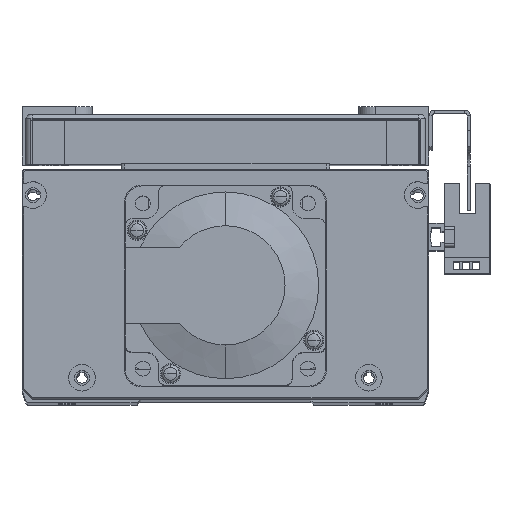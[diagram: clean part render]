
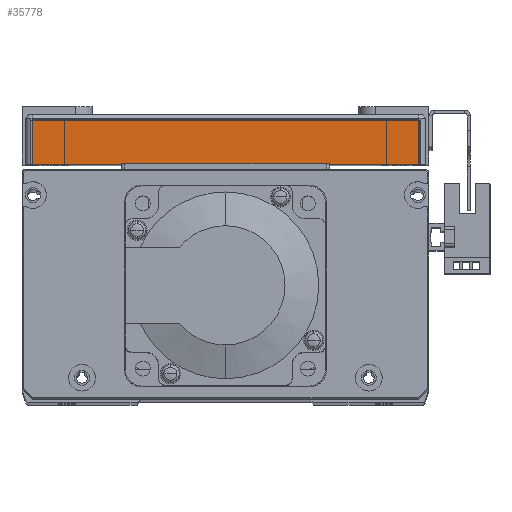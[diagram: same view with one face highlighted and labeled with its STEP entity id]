
A CAD part, top view. The second image highlights one B-rep face of the part: STEP entity #35778.
In plain terms, the highlighted planar face has unit normal (0, 0, 1) as drawn and (1, 0, 0) by its records, which use the part's own axes.
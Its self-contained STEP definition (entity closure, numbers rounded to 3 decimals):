
#673 = CARTESIAN_POINT ( 'NONE',  ( 82.5, 14., 58. ) ) ;
#762 = CARTESIAN_POINT ( 'NONE',  ( 82.5, 14., -58. ) ) ;
#777 = CARTESIAN_POINT ( 'NONE',  ( 82.5, 0., -58. ) ) ;
#806 = CARTESIAN_POINT ( 'NONE',  ( 82.5, 0., 58. ) ) ;
#1099 = CARTESIAN_POINT ( 'NONE',  ( 82.5, 15., -60. ) ) ;
#1131 = DIRECTION ( 'NONE',  ( 0., 0., 1. ) ) ;
#1134 = PLANE ( 'NONE',  #50796 ) ;
#1139 = DIRECTION ( 'NONE',  ( -1., 0., 0. ) ) ;
#2709 = EDGE_LOOP ( 'NONE', ( #45552, #46120, #46133, #45587 ) ) ;
#14222 = FACE_OUTER_BOUND ( 'NONE', #2709, .T. ) ;
#14308 = DIRECTION ( 'NONE',  ( 0., 0., -1. ) ) ;
#14313 = CARTESIAN_POINT ( 'NONE',  ( 82.5, 0., -60. ) ) ;
#14759 = DIRECTION ( 'NONE',  ( 0., 1., 0. ) ) ;
#14793 = CARTESIAN_POINT ( 'NONE',  ( 82.5, 15., -58. ) ) ;
#14805 = CARTESIAN_POINT ( 'NONE',  ( 82.5, 15., 58. ) ) ;
#14821 = DIRECTION ( 'NONE',  ( 0., -1., 0. ) ) ;
#14847 = DIRECTION ( 'NONE',  ( 0., 0., 1. ) ) ;
#14860 = CARTESIAN_POINT ( 'NONE',  ( 82.5, 14., 58. ) ) ;
#18882 = EDGE_CURVE ( 'NONE', #35585, #35575, #52575, .T. ) ;
#18923 = EDGE_CURVE ( 'NONE', #35552, #35520, #52568, .T. ) ;
#18929 = EDGE_CURVE ( 'NONE', #35575, #35552, #52587, .T. ) ;
#18931 = EDGE_CURVE ( 'NONE', #35520, #35585, #52584, .T. ) ;
#35520 = VERTEX_POINT ( 'NONE', #673 ) ;
#35552 = VERTEX_POINT ( 'NONE', #762 ) ;
#35575 = VERTEX_POINT ( 'NONE', #777 ) ;
#35585 = VERTEX_POINT ( 'NONE', #806 ) ;
#35778 = ADVANCED_FACE ( 'NONE', ( #14222 ), #1134, .F. ) ;
#45552 = ORIENTED_EDGE ( 'NONE', *, *, #18929, .T. ) ;
#45587 = ORIENTED_EDGE ( 'NONE', *, *, #18882, .T. ) ;
#46120 = ORIENTED_EDGE ( 'NONE', *, *, #18923, .T. ) ;
#46133 = ORIENTED_EDGE ( 'NONE', *, *, #18931, .T. ) ;
#50796 = AXIS2_PLACEMENT_3D ( 'NONE', #1099, #1139, #1131 ) ;
#52531 = VECTOR ( 'NONE', #14308, 1000. ) ;
#52568 = LINE ( 'NONE', #14860, #52572 ) ;
#52572 = VECTOR ( 'NONE', #14847, 1000. ) ;
#52575 = LINE ( 'NONE', #14313, #52531 ) ;
#52584 = LINE ( 'NONE', #14805, #52593 ) ;
#52587 = LINE ( 'NONE', #14793, #52611 ) ;
#52593 = VECTOR ( 'NONE', #14821, 1000. ) ;
#52611 = VECTOR ( 'NONE', #14759, 1000. ) ;
